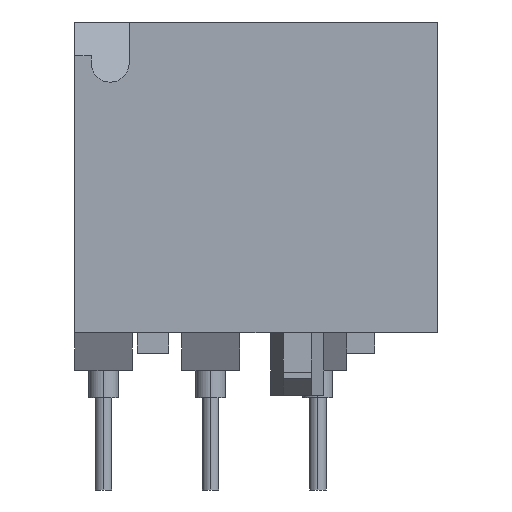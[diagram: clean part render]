
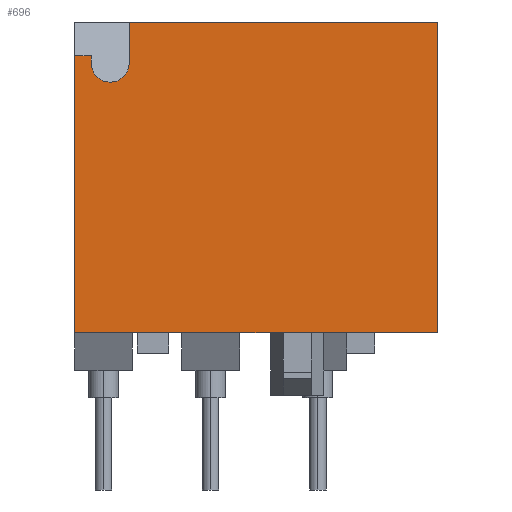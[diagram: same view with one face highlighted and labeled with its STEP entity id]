
A CAD part, front view. The second image highlights one B-rep face of the part: STEP entity #696.
In plain terms, the highlighted planar face has unit normal (0, -1, 0).
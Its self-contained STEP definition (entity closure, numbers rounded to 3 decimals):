
#381 = VECTOR ( 'NONE', #1542, 1000. ) ;
#382 = CIRCLE ( 'NONE', #1963, 2.3 ) ;
#383 = VECTOR ( 'NONE', #1540, 1000. ) ;
#384 = LINE ( 'NONE', #1541, #381 ) ;
#385 = VECTOR ( 'NONE', #1538, 1000. ) ;
#386 = LINE ( 'NONE', #1539, #383 ) ;
#387 = VECTOR ( 'NONE', #1536, 1000. ) ;
#388 = LINE ( 'NONE', #1537, #385 ) ;
#389 = VECTOR ( 'NONE', #1533, 1000. ) ;
#390 = LINE ( 'NONE', #1534, #387 ) ;
#394 = LINE ( 'NONE', #1529, #389 ) ;
#406 = VECTOR ( 'NONE', #1518, 1000. ) ;
#407 = LINE ( 'NONE', #1493, #406 ) ;
#452 = CARTESIAN_POINT ( 'NONE',  ( 44., 0., 18.85 ) ) ;
#456 = PLANE ( 'NONE',  #1774 ) ;
#460 = DIRECTION ( 'NONE',  ( 0., 1., 0. ) ) ;
#461 = DIRECTION ( 'NONE',  ( 0., 0., 1. ) ) ;
#696 = ADVANCED_FACE ( 'NONE', ( #1277 ), #456, .F. ) ;
#741 = EDGE_CURVE ( 'NONE', #2471, #2472, #407, .T. ) ;
#749 = EDGE_CURVE ( 'NONE', #2465, #2463, #394, .T. ) ;
#750 = EDGE_CURVE ( 'NONE', #2463, #2460, #390, .T. ) ;
#751 = EDGE_CURVE ( 'NONE', #2460, #3487, #388, .T. ) ;
#752 = EDGE_CURVE ( 'NONE', #2471, #3468, #386, .T. ) ;
#753 = EDGE_CURVE ( 'NONE', #2472, #2464, #384, .T. ) ;
#754 = EDGE_CURVE ( 'NONE', #2464, #2465, #382, .T. ) ;
#1033 = EDGE_CURVE ( 'NONE', #3468, #3487, #2883, .T. ) ;
#1277 = FACE_OUTER_BOUND ( 'NONE', #3393, .T. ) ;
#1493 = CARTESIAN_POINT ( 'NONE',  ( 44., 0., 18.85 ) ) ;
#1518 = DIRECTION ( 'NONE',  ( -1., 0., 0. ) ) ;
#1529 = CARTESIAN_POINT ( 'NONE',  ( 2., 0., 13.85 ) ) ;
#1533 = DIRECTION ( 'NONE',  ( 0., 0., 1. ) ) ;
#1534 = CARTESIAN_POINT ( 'NONE',  ( 2., 0., 14.75 ) ) ;
#1536 = DIRECTION ( 'NONE',  ( -1., 0., 0. ) ) ;
#1537 = CARTESIAN_POINT ( 'NONE',  ( 0., 0., 18.85 ) ) ;
#1538 = DIRECTION ( 'NONE',  ( 0., 0., -1. ) ) ;
#1539 = CARTESIAN_POINT ( 'NONE',  ( 44., 0., 18.85 ) ) ;
#1540 = DIRECTION ( 'NONE',  ( 0., 0., -1. ) ) ;
#1541 = CARTESIAN_POINT ( 'NONE',  ( 6.6, 0., 18.85 ) ) ;
#1542 = DIRECTION ( 'NONE',  ( 0., 0., -1. ) ) ;
#1544 = CARTESIAN_POINT ( 'NONE',  ( 4.3, 0., 13.85 ) ) ;
#1545 = DIRECTION ( 'NONE',  ( 0., 1., 0. ) ) ;
#1546 = DIRECTION ( 'NONE',  ( 0., 0., -1. ) ) ;
#1774 = AXIS2_PLACEMENT_3D ( 'NONE', #452, #460, #461 ) ;
#1963 = AXIS2_PLACEMENT_3D ( 'NONE', #1544, #1545, #1546 ) ;
#2460 = VERTEX_POINT ( 'NONE', #4385 ) ;
#2463 = VERTEX_POINT ( 'NONE', #4388 ) ;
#2464 = VERTEX_POINT ( 'NONE', #4389 ) ;
#2465 = VERTEX_POINT ( 'NONE', #4390 ) ;
#2471 = VERTEX_POINT ( 'NONE', #4396 ) ;
#2472 = VERTEX_POINT ( 'NONE', #4397 ) ;
#2883 = LINE ( 'NONE', #4191, #2886 ) ;
#2886 = VECTOR ( 'NONE', #4192, 1000. ) ;
#3393 = EDGE_LOOP ( 'NONE', ( #4049, #4050, #4051, #4052, #4053, #4054, #4055, #4056 ) ) ;
#3468 = VERTEX_POINT ( 'NONE', #4480 ) ;
#3487 = VERTEX_POINT ( 'NONE', #4499 ) ;
#4049 = ORIENTED_EDGE ( 'NONE', *, *, #749, .T. ) ;
#4050 = ORIENTED_EDGE ( 'NONE', *, *, #750, .T. ) ;
#4051 = ORIENTED_EDGE ( 'NONE', *, *, #751, .T. ) ;
#4052 = ORIENTED_EDGE ( 'NONE', *, *, #1033, .F. ) ;
#4053 = ORIENTED_EDGE ( 'NONE', *, *, #752, .F. ) ;
#4054 = ORIENTED_EDGE ( 'NONE', *, *, #741, .T. ) ;
#4055 = ORIENTED_EDGE ( 'NONE', *, *, #753, .T. ) ;
#4056 = ORIENTED_EDGE ( 'NONE', *, *, #754, .T. ) ;
#4191 = CARTESIAN_POINT ( 'NONE',  ( 44., 0., -18.85 ) ) ;
#4192 = DIRECTION ( 'NONE',  ( -1., 0., 0. ) ) ;
#4385 = CARTESIAN_POINT ( 'NONE',  ( 0., 0., 14.75 ) ) ;
#4388 = CARTESIAN_POINT ( 'NONE',  ( 2., 0., 14.75 ) ) ;
#4389 = CARTESIAN_POINT ( 'NONE',  ( 6.6, 0., 13.85 ) ) ;
#4390 = CARTESIAN_POINT ( 'NONE',  ( 2., 0., 13.85 ) ) ;
#4396 = CARTESIAN_POINT ( 'NONE',  ( 44., 0., 18.85 ) ) ;
#4397 = CARTESIAN_POINT ( 'NONE',  ( 6.6, 0., 18.85 ) ) ;
#4480 = CARTESIAN_POINT ( 'NONE',  ( 44., 0., -18.85 ) ) ;
#4499 = CARTESIAN_POINT ( 'NONE',  ( 0., 0., -18.85 ) ) ;
